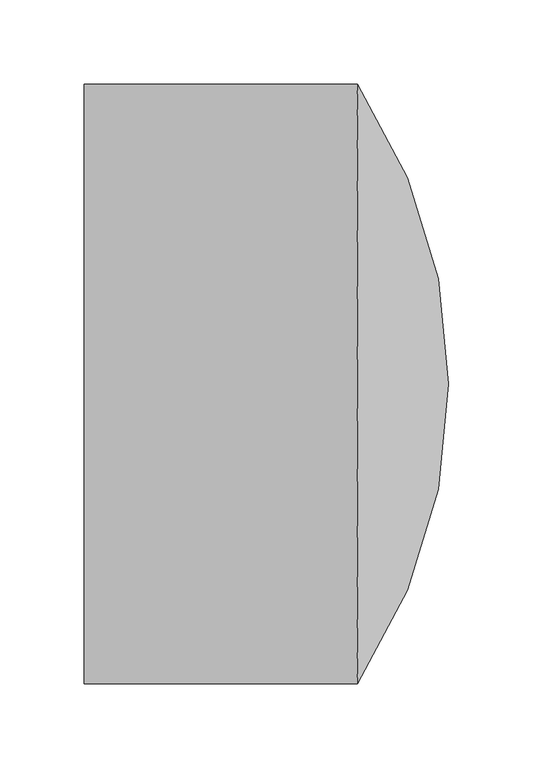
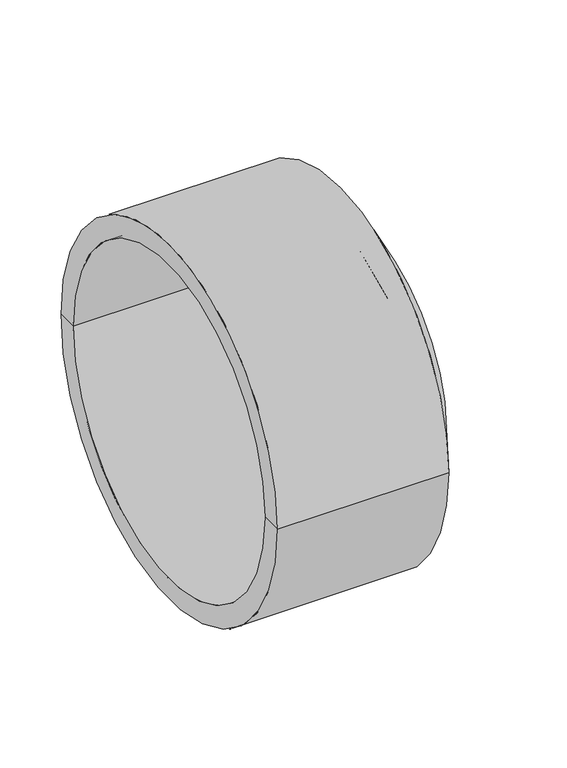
"""IFC4 building model written with IfcOpenShell, lengths in millimetres: pipe fitting geometry, EGB_VASEN_ PPR_Tapon a tope WXB700 : Tapón a tope WXRB700."""

from ifc_helpers import new_model, si_unit, point, frame, origin, place, context, project, spatial, polyline, circle_curve, ellipse_curve, trimmed, source, transform, mapped, element, save
from ifc_brep_helpers import plane_surface, cylinder_surface, revolved_surface, advanced_brep


def pipe_fitting_01719ef9(model_context):
    return source(origin(), model_context, "Body", "AdvancedBrep", [
        advanced_brep(
        [(0.0, -177.5, 0.0), (0.0, 177.5, 0.0), (162.0, 177.5, 0.0), (162.0, -177.5, 0.0), (0.0, -157.5, 0.0), (0.0, 157.5, 0.0), (151.1124016, -157.5, 0.0), (151.1124016, 157.5, 0.0), (196.0, 0.0, 0.0), (216.0, 0.0, 0.0)],
        [
            (0, 1, circle_curve(frame((0.0, 0.0, 0.0), z_axis=(1.0, 0.0, 0.0), x_axis=(0.0, 1.0, 0.0)), 177.5)),
            (1, 2),
            (2, 3, circle_curve(frame((162.0, 0.0, 0.0), z_axis=(-1.0, 0.0, 0.0), x_axis=(0.0, 1.0, 0.0)), 177.5)),
            (3, 0),
            (1, 0, circle_curve(frame((0.0, 0.0, 0.0), z_axis=(1.0, 0.0, 0.0), x_axis=(0.0, 1.0, 0.0)), 177.5)),
            (3, 2, circle_curve(frame((162.0, 0.0, 0.0), z_axis=(-1.0, 0.0, 0.0), x_axis=(0.0, 1.0, 0.0)), 177.5)),
            (4, 5, circle_curve(frame((0.0, 0.0, 0.0), z_axis=(1.0, 0.0, 0.0), x_axis=(0.0, 1.0, 0.0)), 157.5)),
            (5, 1),
            (0, 4),
            (5, 4, circle_curve(frame((0.0, 0.0, 0.0), z_axis=(1.0, 0.0, 0.0), x_axis=(0.0, 1.0, 0.0)), 157.5)),
            (6, 7, circle_curve(frame((151.1124016, 0.0, 0.0), z_axis=(1.0, 0.0, 0.0), x_axis=(0.0, 1.0, 0.0)), 157.5)),
            (7, 5),
            (4, 6),
            (7, 6, circle_curve(frame((151.1124016, 0.0, 0.0), z_axis=(1.0, 0.0, 0.0), x_axis=(0.0, 1.0, 0.0)), 157.5)),
            (8, 7, circle_curve(frame((-102.2138836, 0.1553537, 0.0), z_axis=(0.0, 0.0, 1.0), x_axis=(1.0, 0.0, 0.0)), 298.213924)),
            (6, 8, circle_curve(frame((-102.2138836, -0.1553537, 0.0), z_axis=(0.0, 0.0, 1.0), x_axis=(1.0, 0.0, 0.0)), 298.213924)),
            (2, 9, circle_curve(frame((-102.2138836, 0.1553537, 0.0), z_axis=(0.0, 0.0, -1.0), x_axis=(1.0, 0.0, 0.0)), 318.2139215)),
            (9, 3, circle_curve(frame((-102.2138836, -0.1553537, 0.0), z_axis=(0.0, 0.0, -1.0), x_axis=(1.0, 0.0, 0.0)), 318.2139215)),
        ],
        [
            cylinder_surface(frame((8.258615, 0.0, 0.0), z_axis=(-1.0, 0.0, 0.0), x_axis=(0.0, 1.0, 0.0)), 177.5),
            plane_surface(frame((0.0, 0.0, 0.0), z_axis=(-1.0, 0.0, 0.0), x_axis=(0.0, 1.0, 0.0))),
            revolved_surface(polyline([(0.0, 157.5, 0.0), (151.1124016, 157.5, 0.0)]), (8.258615, 0.0, 0.0), (-1.0, 0.0, 0.0)),
            revolved_surface(trimmed(ellipse_curve(frame((-102.2138836, 0.1553537, 0.0), z_axis=(0.0, 0.0, -1.0), x_axis=(1.0, 0.0, 0.0)), 298.213924, 298.213924), [point((151.1124016, 157.5, 0.0))], [point((196.0, 0.0, 0.0))], True, "CARTESIAN"), (8.258615, 0.0, 0.0), (-1.0, 0.0, 0.0)),
            revolved_surface(trimmed(ellipse_curve(frame((-102.2138836, 0.1553537, 0.0), z_axis=(0.0, 0.0, 1.0), x_axis=(1.0, 0.0, 0.0)), 318.2139215, 318.2139215), [point((216.0, 0.0, 0.0))], [point((162.0, 177.5, 0.0))], True, "CARTESIAN"), (8.258615, 0.0, 0.0), (-1.0, 0.0, 0.0)),
        ],
        [
            (0, [[1, 2, 3, 4]]),
            (0, [[5, -4, 6, -2]]),
            (1, [[7, 8, -1, 9]]),
            (1, [[10, -9, -5, -8]]),
            (2, [[11, 12, -7, 13]]),
            (2, [[14, -13, -10, -12]]),
            (3, [[15, -11, 16]]),
            (3, [[-16, -14, -15]]),
            (4, [[-3, 17, 18]]),
            (4, [[-6, -18, -17]]),
        ],
    ),
    ])


if __name__ == "__main__":
    model = new_model("IFC4")
    model_context = context("Model", 3, world=origin())
    ifc_project = project(units=[si_unit("LENGTHUNIT", "METRE", prefix="MILLI")], contexts=[model_context])
    site = spatial("IfcSite", under=ifc_project)
    building = spatial("IfcBuilding", under=site)
    placement = place(None, origin())
    pipe_fitting_shape = pipe_fitting_01719ef9(model_context)
    element("IfcPipeFitting", 1, ObjectType="EGB_VASEN_ PPR_Tapon a tope WXB700 : Tapón a tope WXRB700", at=placement, inside=building, context=model_context, shape_type="MappedRepresentation", body=[
        mapped(pipe_fitting_shape, transform((0.0, 0.0, 0.0), x_axis=(1.0, 0.0, 0.0), y_axis=(0.0, 1.0, 0.0), z_axis=(0.0, 0.0, 1.0))),
    ])
    save(model, "model.ifc")
